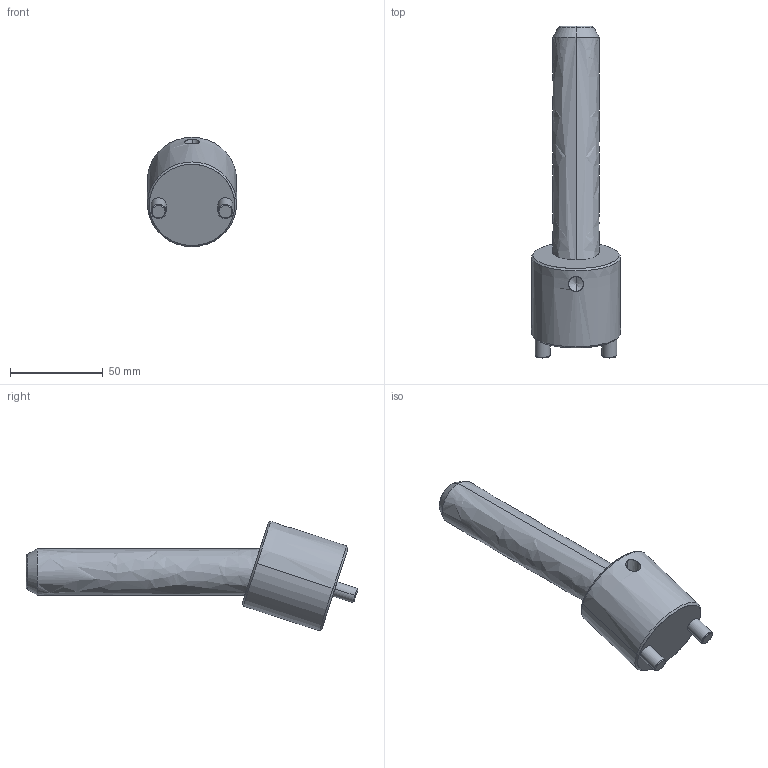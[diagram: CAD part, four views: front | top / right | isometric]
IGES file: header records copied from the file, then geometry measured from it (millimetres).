
Start section: START RECORD GO HERE.
Global section: file name: CI1825125.igs; native system: DASSAULT SYSTEMES CATIA V5 R20 - www.3ds.com; preprocessor: CATIA Version 5 Release 20 ; author: r.borello; organization: CFTORINO; date: 20190624.094546; units: millimetre
Bounding box: 48 x 178.84 x 58.94 mm (x, y, z)
Surface area: 27363.3 mm2 (no closed solid volume)
Topology: 0 solids, 0 shells, 39 faces, 162 edges, 160 vertices
Faces by surface type: revolution 32, plane 7
